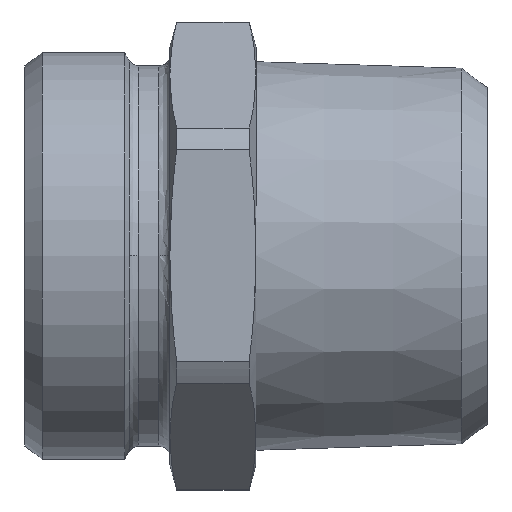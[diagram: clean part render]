
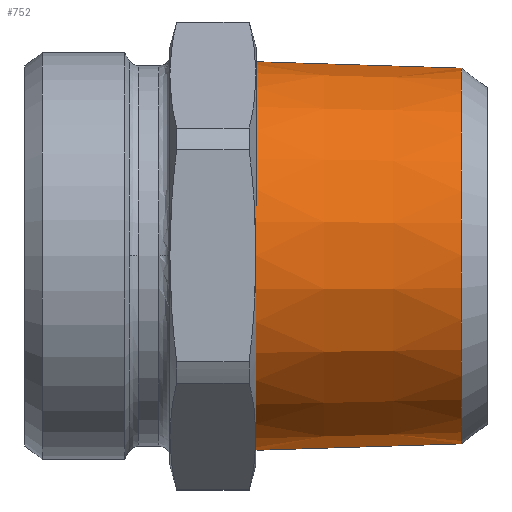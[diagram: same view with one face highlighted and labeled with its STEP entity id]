
A CAD part, top view. The second image highlights one B-rep face of the part: STEP entity #752.
In plain terms, the highlighted conical face has half-angle 1.79 degrees and reference radius 21.063 mm.
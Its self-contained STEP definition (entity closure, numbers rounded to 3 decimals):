
#711=CARTESIAN_POINT('',(0.,0.,-16.067));
#712=DIRECTION('',(0.,0.,1.0));
#713=DIRECTION('',(0.0,-1.0,0.0));
#714=AXIS2_PLACEMENT_3D('',#711,#712,#713);
#715=CONICAL_SURFACE('',#714,21.063,1.79);
#716=CARTESIAN_POINT('',(0.,-20.71,-27.384));
#717=VERTEX_POINT('',#716);
#718=CARTESIAN_POINT('',(0.,-21.417,-4.75));
#719=VERTEX_POINT('',#718);
#720=CARTESIAN_POINT('',(0.,-20.71,-27.384));
#721=DIRECTION('',(0.,-0.031,1.));
#722=VECTOR('',#721,22.645);
#723=LINE('',#720,#722);
#724=EDGE_CURVE('',#717,#719,#723,.T.);
#725=ORIENTED_EDGE('',*,*,#724,.F.);
#726=CARTESIAN_POINT('',(0.,20.71,-27.384));
#727=VERTEX_POINT('',#726);
#728=CARTESIAN_POINT('',(0.,0.,-27.384));
#729=DIRECTION('',(0.0,0.0,1.0));
#730=DIRECTION('',(0.0,-1.0,0.0));
#731=AXIS2_PLACEMENT_3D('',#728,#729,#730);
#732=CIRCLE('',#731,20.71);
#733=EDGE_CURVE('',#717,#727,#732,.T.);
#734=ORIENTED_EDGE('',*,*,#733,.T.);
#735=CARTESIAN_POINT('',(0.,21.417,-4.75));
#736=VERTEX_POINT('',#735);
#737=CARTESIAN_POINT('',(0.,21.417,-4.75));
#738=DIRECTION('',(0.,-0.031,-1.));
#739=VECTOR('',#738,22.645);
#740=LINE('',#737,#739);
#741=EDGE_CURVE('',#736,#727,#740,.T.);
#742=ORIENTED_EDGE('',*,*,#741,.F.);
#743=CARTESIAN_POINT('',(0.,0.,-4.75));
#744=DIRECTION('',(0.0,0.0,1.0));
#745=DIRECTION('',(0.0,-1.0,0.0));
#746=AXIS2_PLACEMENT_3D('',#743,#744,#745);
#747=CIRCLE('',#746,21.417);
#748=EDGE_CURVE('',#719,#736,#747,.T.);
#749=ORIENTED_EDGE('',*,*,#748,.F.);
#750=EDGE_LOOP('',(#725,#734,#742,#749));
#751=FACE_OUTER_BOUND('',#750,.T.);
#752=ADVANCED_FACE('',(#751),#715,.T.);
